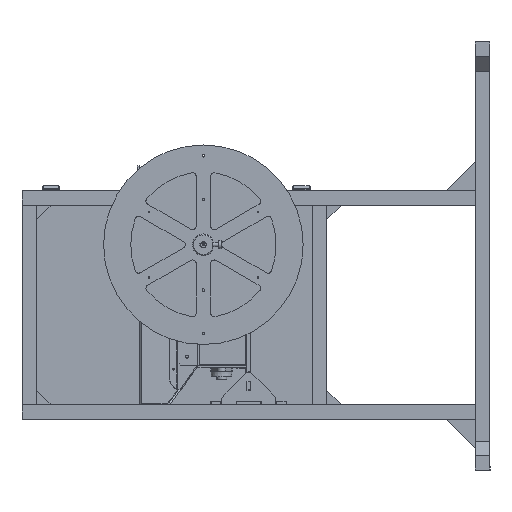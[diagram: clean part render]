
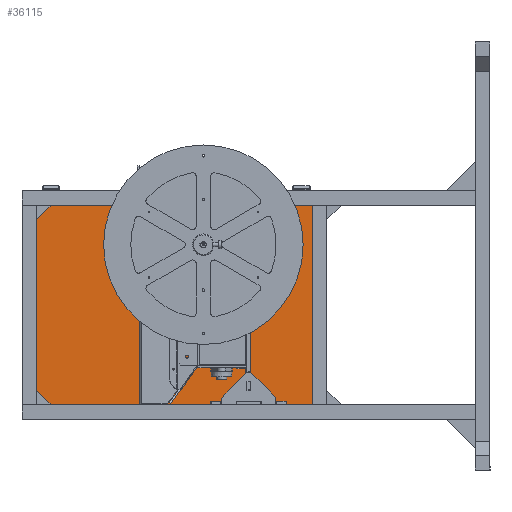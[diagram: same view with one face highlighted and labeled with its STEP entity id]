
A CAD part, left-side view. The second image highlights one B-rep face of the part: STEP entity #36115.
In plain terms, the highlighted planar face has unit normal (-1, 0, 0).
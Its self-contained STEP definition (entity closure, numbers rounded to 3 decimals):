
#3011=PLANE('',#40449);
#4882=FACE_OUTER_BOUND('',#7112,.T.);
#7112=EDGE_LOOP('',(#33583,#33584,#33585,#33586));
#10406=LINE('',#65663,#13711);
#10410=LINE('',#65671,#13715);
#10413=LINE('',#65677,#13718);
#10416=LINE('',#65682,#13721);
#13711=VECTOR('',#50874,10.);
#13715=VECTOR('',#50880,10.);
#13718=VECTOR('',#50885,10.);
#13721=VECTOR('',#50890,10.);
#18465=VERTEX_POINT('',#65661);
#18466=VERTEX_POINT('',#65662);
#18469=VERTEX_POINT('',#65670);
#18471=VERTEX_POINT('',#65676);
#23499=EDGE_CURVE('',#18465,#18466,#10406,.T.);
#23503=EDGE_CURVE('',#18466,#18469,#10410,.T.);
#23506=EDGE_CURVE('',#18469,#18471,#10413,.T.);
#23509=EDGE_CURVE('',#18471,#18465,#10416,.T.);
#33583=ORIENTED_EDGE('',*,*,#23509,.T.);
#33584=ORIENTED_EDGE('',*,*,#23499,.T.);
#33585=ORIENTED_EDGE('',*,*,#23503,.T.);
#33586=ORIENTED_EDGE('',*,*,#23506,.T.);
#36115=ADVANCED_FACE('',(#4882),#3011,.F.);
#40449=AXIS2_PLACEMENT_3D('',#65685,#50894,#50895);
#50874=DIRECTION('',(0.,1.,0.));
#50880=DIRECTION('',(0.,0.,-1.));
#50885=DIRECTION('',(0.,-1.,0.));
#50890=DIRECTION('',(0.,0.,1.));
#50894=DIRECTION('center_axis',(1.,0.,0.));
#50895=DIRECTION('ref_axis',(0.,0.,
-1.));
#65661=CARTESIAN_POINT('',(132.,-285.,328.5));
#65662=CARTESIAN_POINT('',(132.,545.,328.5));
#65663=CARTESIAN_POINT('',(132.,-285.,328.5));
#65670=CARTESIAN_POINT('',(132.,545.,-291.5));
#65671=CARTESIAN_POINT('',(132.,545.,328.5));
#65676=CARTESIAN_POINT('',(132.,-285.,-291.5));
#65677=CARTESIAN_POINT('',(132.,545.,-291.5));
#65682=CARTESIAN_POINT('',(132.,-285.,-291.5));
#65685=CARTESIAN_POINT('Origin',(132.,130.,18.5));
